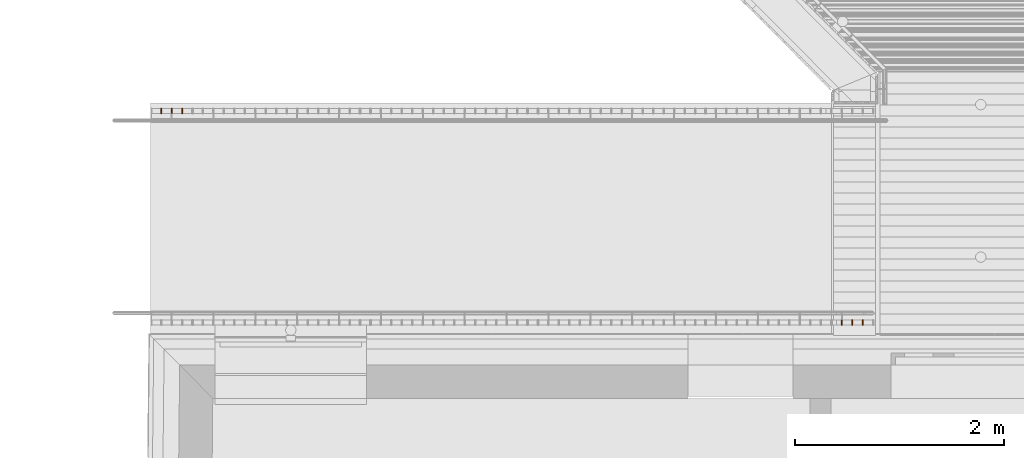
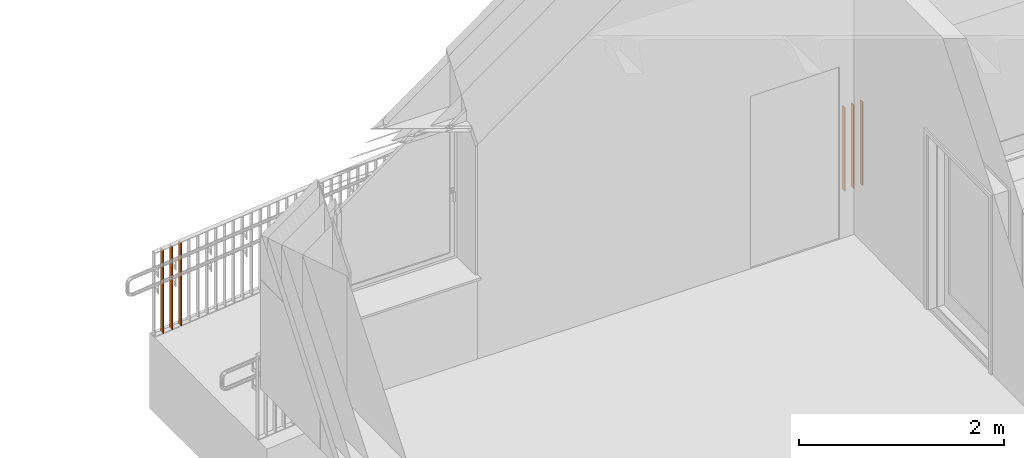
# One storey, part 370 of 418: 6 proxies, 2 elements without a shape of their own.
"""IFC2X3 building model written with IfcOpenShell, lengths in millimetres."""

from ifc_helpers import new_model, entity, si_unit, converted_unit, derived_unit, money_unit, direction, frame, origin_with_axes, place, context, subcontext, project, spatial, faceted_brep, source, transform, mapped, material, type_object, element, aggregate, save


model = new_model("IFC2X3")

# Units and contexts
model_context = context("Model", 3, precision=0.01, world=origin_with_axes(), true_north=direction((0.0, 1.0)))
body_context = subcontext(model_context, "Body", "Model", "MODEL_VIEW")
ifc_project = project(units=[si_unit("LENGTHUNIT", "METRE", prefix="MILLI"), si_unit("AREAUNIT", "SQUARE_METRE"), si_unit("VOLUMEUNIT", "CUBIC_METRE"), converted_unit("PLANEANGLEUNIT", "DEGREE", entity("IfcPlaneAngleMeasure", 0.0174532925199), si_unit("PLANEANGLEUNIT", "RADIAN"), dimensions=[0, 0, 0, 0, 0, 0, 0]), si_unit("SOLIDANGLEUNIT", "STERADIAN"), money_unit("EUR"), converted_unit("TIMEUNIT", "Year", entity("IfcTimeMeasure", 31556926.0), si_unit("TIMEUNIT", "SECOND"), dimensions=[0, 0, 1, 0, 0, 0, 0]), si_unit("MASSUNIT", "GRAM", prefix="KILO"), si_unit("THERMODYNAMICTEMPERATUREUNIT", "DEGREE_CELSIUS"), si_unit("LUMINOUSINTENSITYUNIT", "LUMEN"), si_unit("ENERGYUNIT", "JOULE", prefix="MEGA"), derived_unit("THERMALCONDUCTANCEUNIT", [(si_unit("POWERUNIT", "WATT"), 1), (si_unit("LENGTHUNIT", "METRE"), -1), (si_unit("THERMODYNAMICTEMPERATUREUNIT", "KELVIN"), -1)]), derived_unit("SPECIFICHEATCAPACITYUNIT", [(si_unit("ENERGYUNIT", "JOULE"), 1), (si_unit("MASSUNIT", "GRAM", prefix="KILO"), -1), (si_unit("THERMODYNAMICTEMPERATUREUNIT", "KELVIN"), -1)]), derived_unit("MASSDENSITYUNIT", [(si_unit("MASSUNIT", "GRAM", prefix="KILO"), 1), (si_unit("VOLUMEUNIT", "CUBIC_METRE"), -1)])], contexts=[model_context])

# Site, building, storey
site_placement = place(None, origin_with_axes())
site = spatial("IfcSite", under=ifc_project, at=site_placement, Name="Paldiski mnt 245/1, Tallinn, Harjumaa", CompositionType="COMPLEX")
building_placement = place(site_placement, origin_with_axes())
building = spatial("IfcBuilding", under=site, at=building_placement, Name="RKAS Hoone üldnimetus (kasutust iseloomustav) -> IFC Project Manager -> SOLIBRI", CompositionType="ELEMENT")
storey_placement = place(building_placement, origin_with_axes())
storey = spatial("IfcBuildingStorey", under=building, at=storey_placement, Name="Esimene korrus", CompositionType="ELEMENT", Elevation=0.0)

# Railing, proxies
railing_type = type_object("IfcRailingType", Name="Railing Type", PredefinedType="NOTDEFINED")
railing_1_placement = place(storey_placement, frame((-59926.3032165, 36469.8286725, -670.351943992), z_axis=(0.0, 0.0, 1.0), x_axis=(-1.0, 0.0, 0.0)))
railing_1 = element("IfcRailing", 1, at=railing_1_placement, inside=storey, type_object=railing_type, Name="Trepipiire", PredefinedType="NOTDEFINED")
ifc_material = material(Name="RAL7016")
building_element_proxy_type = type_object("IfcBuildingElementProxyType", Name="IfcBuildingElementProxy", PredefinedType="NOTDEFINED")
shared_shape_1 = source(origin_with_axes(), body_context, "Body", "Brep", [
    faceted_brep([(25.0, 5.0, 0.0), (-25.0, 5.0, 0.0), (-25.0, 5.0, 990.000012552), (25.0, 5.0, 990.000012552), (25.0, -5.0, 0.0), (-25.0, -5.0, 0.0), (-25.0, -5.0, 990.000012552), (25.0, -5.0, 990.000012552)], [[[0, 1, 2, 3]], [[0, 4, 5, 1]], [[1, 5, 6, 2]], [[3, 2, 6, 7]], [[4, 0, 3, 7]], [[5, 4, 7, 6]]]),
])
proxy_1_placement = place(railing_1_placement, frame((-6606.53387978, -24.9999999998, 650.35193144), z_axis=(0.0, 0.0, 1.0), x_axis=(-1.0, 0.0, 0.0)))
proxy_1 = element("IfcBuildingElementProxy", 2, at=proxy_1_placement, type_object=building_element_proxy_type, material=ifc_material, Name="BALUSTER - 001", context=body_context, shape_type="MappedRepresentation", body=[
    mapped(shared_shape_1, transform((0.0, 0.0, 0.0), x_axis=(0.0, -1.0, 0.0), y_axis=(1.0, 0.0, 0.0), z_axis=(0.0, 0.0, 1.0))),
])
proxy_2_placement = place(railing_1_placement, frame((-6706.53387978, -24.9999999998, 650.35193144), z_axis=(0.0, 0.0, 1.0), x_axis=(-1.0, 0.0, 0.0)))
proxy_2 = element("IfcBuildingElementProxy", 3, at=proxy_2_placement, type_object=building_element_proxy_type, material=ifc_material, Name="BALUSTER - 001", context=body_context, shape_type="MappedRepresentation", body=[
    mapped(shared_shape_1, transform((0.0, 0.0, 0.0), x_axis=(0.0, -1.0, 0.0), y_axis=(1.0, 0.0, 0.0), z_axis=(0.0, 0.0, 1.0))),
])
proxy_3_placement = place(railing_1_placement, frame((-6806.53387978, -24.9999999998, 650.35193144), z_axis=(0.0, 0.0, 1.0), x_axis=(-1.0, 0.0, 0.0)))
proxy_3 = element("IfcBuildingElementProxy", 4, at=proxy_3_placement, type_object=building_element_proxy_type, material=ifc_material, Name="BALUSTER - 001", context=body_context, shape_type="MappedRepresentation", body=[
    mapped(shared_shape_1, transform((0.0, 0.0, 0.0), x_axis=(0.0, -1.0, 0.0), y_axis=(1.0, 0.0, 0.0), z_axis=(0.0, 0.0, 1.0))),
])
aggregate(railing_1, [proxy_1, proxy_2, proxy_3])

railing_2_placement = place(storey_placement, frame((-53022.826789, 38539.7311919, -669.703891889), z_axis=(0.0, 0.0, 1.0), x_axis=(-0.773149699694, -0.634223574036, 0.0)))
railing_2 = element("IfcRailing", 5, at=railing_2_placement, inside=storey, type_object=railing_type, Name="Trepipiire", PredefinedType="NOTDEFINED")
shared_shape_2 = source(origin_with_axes(), body_context, "Body", "Brep", [
    faceted_brep([(25.0, 5.0, -0.500145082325), (-25.0, 5.0, -0.500145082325), (-25.0, 5.0, 989.499867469), (25.0, 5.0, 989.499867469), (25.0, -5.0, 0.500145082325), (-25.0, -5.0, 0.500145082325), (-25.0, -5.0, 990.500157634), (25.0, -5.0, 990.500157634)], [[[0, 1, 2, 3]], [[0, 4, 5, 1]], [[1, 5, 6, 2]], [[3, 2, 6, 7]], [[4, 0, 3, 7]], [[5, 4, 7, 6]]]),
])
proxy_4_placement = place(railing_2_placement, frame((5119.00079037, -4166.83984914, 29.3604499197), z_axis=(0.0, 0.0, 1.0), x_axis=(-0.773149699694, 0.634223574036, 0.0)))
proxy_4 = element("IfcBuildingElementProxy", 6, at=proxy_4_placement, type_object=building_element_proxy_type, material=ifc_material, Name="BALUSTER - 001", context=body_context, shape_type="MappedRepresentation", body=[
    mapped(shared_shape_2, transform((0.0, 0.0, 0.0), x_axis=(0.0, 1.0, 0.0), y_axis=(-1.0, 0.0, 0.0), z_axis=(0.0, 0.0, 1.0))),
])
proxy_5_placement = place(railing_2_placement, frame((5196.31576034, -4230.26220655, 19.3575482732), z_axis=(0.0, 0.0, 1.0), x_axis=(-0.773149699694, 0.634223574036, 0.0)))
proxy_5 = element("IfcBuildingElementProxy", 7, at=proxy_5_placement, type_object=building_element_proxy_type, material=ifc_material, Name="BALUSTER - 001", context=body_context, shape_type="MappedRepresentation", body=[
    mapped(shared_shape_2, transform((0.0, 0.0, 0.0), x_axis=(0.0, 1.0, 0.0), y_axis=(-1.0, 0.0, 0.0), z_axis=(0.0, 0.0, 1.0))),
])
proxy_6_placement = place(railing_2_placement, frame((5273.63073031, -4293.68456395, 9.35464662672), z_axis=(0.0, 0.0, 1.0), x_axis=(-0.773149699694, 0.634223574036, 0.0)))
proxy_6 = element("IfcBuildingElementProxy", 8, at=proxy_6_placement, type_object=building_element_proxy_type, material=ifc_material, Name="BALUSTER - 001", context=body_context, shape_type="MappedRepresentation", body=[
    mapped(shared_shape_2, transform((0.0, 0.0, 0.0), x_axis=(0.0, 1.0, 0.0), y_axis=(-1.0, 0.0, 0.0), z_axis=(0.0, 0.0, 1.0))),
])
aggregate(railing_2, [proxy_4, proxy_5, proxy_6])

save(model, "model.ifc")
